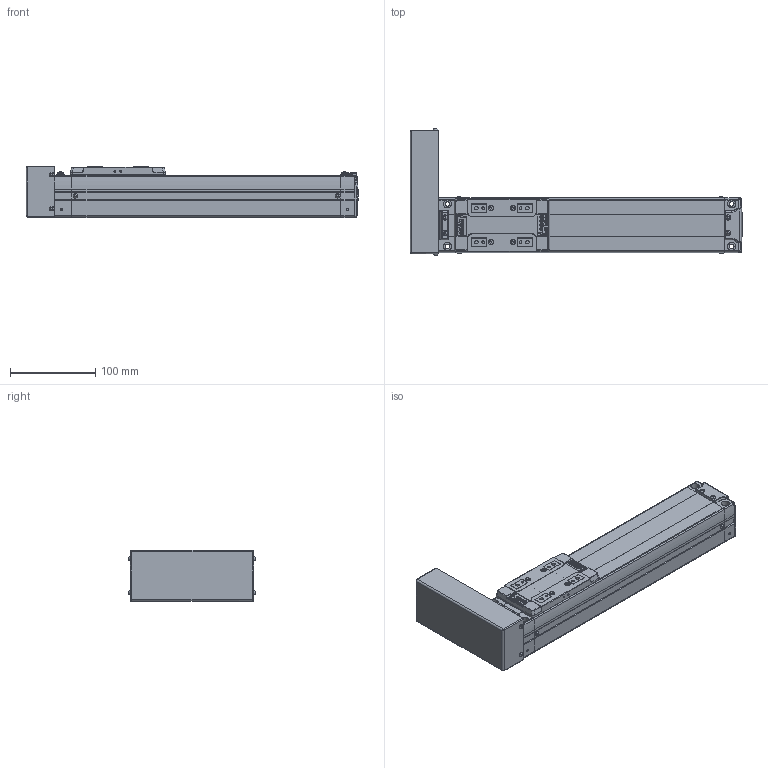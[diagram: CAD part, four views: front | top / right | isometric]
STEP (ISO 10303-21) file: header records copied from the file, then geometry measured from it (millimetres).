
FILE_DESCRIPTION(('STEP AP214'),'1');
FILE_NAME('Z:/Web/3D/SAN65/STP/SAN65ㅁㅁ-200PL.stp','2012-06-14T04:19:50',(' '),(' '),'Spatial InterOp 3D',' ',' ');
FILE_SCHEMA(('automotive_design'));
Length unit declared in the file: metre
Products named in the file (34): SAN65__-200; BODY-SAN65; REAR-SAN65; RRCV-SAN65; 스크루 : Round - M3.0 x 6.0; FRONT-SAN65; SHAFT-SAN65; RN8 x 0.75; SSFX-SAN65; SLIDE-SAN65; SLCV-SAN65; 스크루 : Countersunk - M3.0 x 6.0; ____201; PL; BTCV-SAN65; BHCS M3 X 6L
Assembly tree (33 placements, depth 4):
  ____201
    SAN65__-200
      BODY-SAN65
      REAR-SAN65
        REAR-SAN65
        RRCV-SAN65
        스크루 : Round - M3.0 x 6.0
        스크루 : Round - M3.0 x 6.0
        스크루 : Round - M3.0 x 6.0
        스크루 : Round - M3.0 x 6.0
        스크루 : Round - M3.0 x 6.0
        스크루 : Round - M3.0 x 6.0
      FRONT-SAN65
        FRONT-SAN65
        SHAFT-SAN65
        RN8 x 0.75
        SSFX-SAN65
        스크루 : Round - M3.0 x 6.0
        스크루 : Round - M3.0 x 6.0
        스크루 : Round - M3.0 x 6.0
        스크루 : Round - M3.0 x 6.0
      SLIDE-SAN65
        SLIDE-SAN65
        SLCV-SAN65
        스크루 : Countersunk - M3.0 x 6.0
        스크루 : Countersunk - M3.0 x 6.0
        스크루 : Countersunk - M3.0 x 6.0
        스크루 : Countersunk - M3.0 x 6.0
    PL
      BTCV-SAN65
      BHCS M3 X 6L
      BHCS M3 X 6L
      BHCS M3 X 6L
      BHCS M3 X 6L
Bounding box: 390.15 x 149.13 x 61 mm (x, y, z)
Volume: 1433464.1 mm3; surface area: 192709.2 mm2
Topology: 28 solids, 28 shells, 1456 faces, 3732 edges, 2426 vertices
Faces by surface type: plane 891, cylinder 414, cone 77, bspline 30, sphere 26, torus 15, extrusion 3
Full cylindrical faces by diameter (mm): 0.571 x2, 0.706 x1, 1.727 x2, 2.132 x1, 2.2 x4, 2.5 x9, 2.528 x4, 3 x6, 3.121 x2, 3.3 x4, 3.4 x8, 3.5 x6, 4.2 x20, 4.849 x4, 5 x3, 5.5 x4, 5.987 x2, 6 x6, 6.35 x1, 7 x1, 8 x4, 9.5 x4, 13 x1, 15 x1, 19 x1, 26 x1, 38.1 x1
Entity records: 59740 total; most frequent: CARTESIAN_POINT 12382, DIRECTION 7327, ORIENTED_EDGE 6932, EDGE_CURVE 3466, AXIS2_PLACEMENT_3D 2489, VERTEX_POINT 2376, VECTOR 2349, LINE 2346
